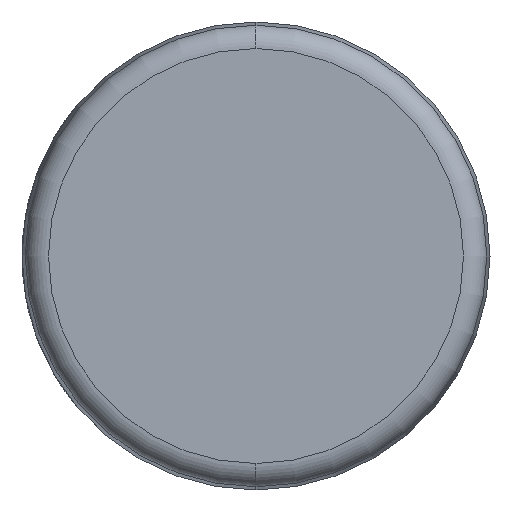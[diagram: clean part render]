
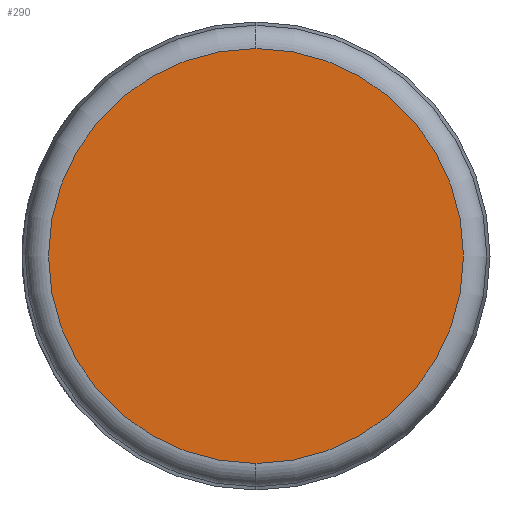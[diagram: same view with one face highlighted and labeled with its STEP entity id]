
A CAD part, left-side view. The second image highlights one B-rep face of the part: STEP entity #290.
In plain terms, the highlighted planar face has unit normal (-1, 0, 0).
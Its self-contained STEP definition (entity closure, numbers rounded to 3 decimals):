
#5 = AXIS2_PLACEMENT_3D ( 'NONE', #108, #545, #538 ) ;
#65 = EDGE_LOOP ( 'NONE', ( #386, #567 ) ) ;
#70 = CIRCLE ( 'NONE', #5, 17.73 ) ;
#108 = CARTESIAN_POINT ( 'NONE',  ( 0., 0., 0. ) ) ;
#154 = FACE_OUTER_BOUND ( 'NONE', #65, .T. ) ;
#188 = AXIS2_PLACEMENT_3D ( 'NONE', #575, #552, #355 ) ;
#241 = VERTEX_POINT ( 'NONE', #738 ) ;
#290 = ADVANCED_FACE ( 'NONE', ( #154 ), #587, .F. ) ;
#355 = DIRECTION ( 'NONE',  ( 0., 0., -1. ) ) ;
#386 = ORIENTED_EDGE ( 'NONE', *, *, #571, .T. ) ;
#514 = VERTEX_POINT ( 'NONE', #554 ) ;
#538 = DIRECTION ( 'NONE',  ( 0., 0., -1. ) ) ;
#545 = DIRECTION ( 'NONE',  ( -1., 0., 0. ) ) ;
#548 = DIRECTION ( 'NONE',  ( -1., 0., 0. ) ) ;
#552 = DIRECTION ( 'NONE',  ( 1., 0., 0. ) ) ;
#554 = CARTESIAN_POINT ( 'NONE',  ( 0., 0., 17.73 ) ) ;
#567 = ORIENTED_EDGE ( 'NONE', *, *, #671, .T. ) ;
#570 = CIRCLE ( 'NONE', #581, 17.73 ) ;
#571 = EDGE_CURVE ( 'NONE', #241, #514, #570, .T. ) ;
#575 = CARTESIAN_POINT ( 'NONE',  ( 0., 0., 0. ) ) ;
#581 = AXIS2_PLACEMENT_3D ( 'NONE', #691, #548, #685 ) ;
#587 = PLANE ( 'NONE',  #188 ) ;
#671 = EDGE_CURVE ( 'NONE', #514, #241, #70, .T. ) ;
#685 = DIRECTION ( 'NONE',  ( 0., 0., -1. ) ) ;
#691 = CARTESIAN_POINT ( 'NONE',  ( 0., 0., 0. ) ) ;
#738 = CARTESIAN_POINT ( 'NONE',  ( 0., 0., -17.73 ) ) ;
